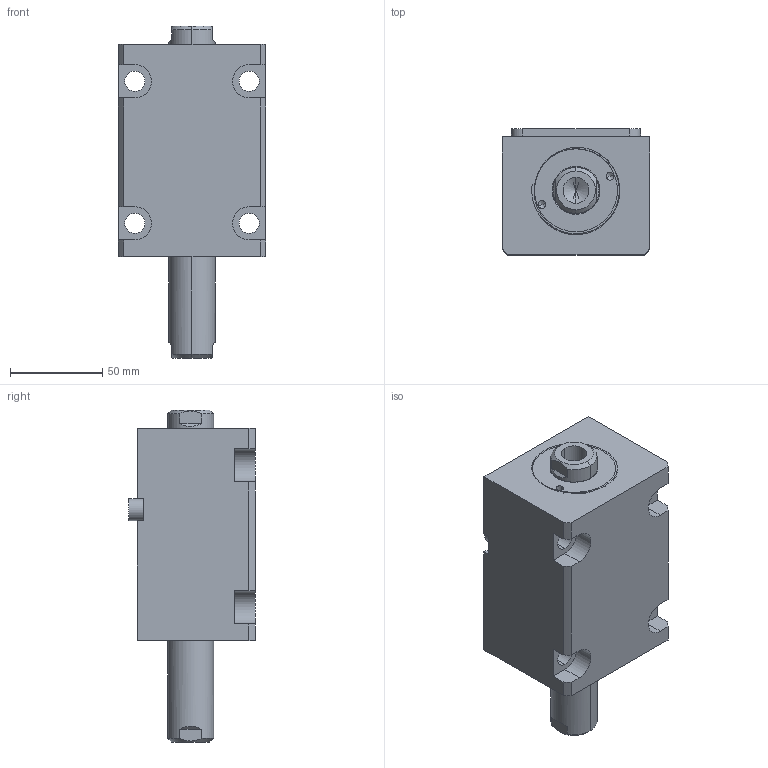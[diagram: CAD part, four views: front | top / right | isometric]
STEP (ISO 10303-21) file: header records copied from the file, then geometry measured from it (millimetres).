
FILE_DESCRIPTION (( 'STEP AP214' ), '1' );
FILE_NAME ('chtb-lwm40x45n_asm.STEP', '2018-05-30T08:04:06', ( 'Windows' ), ( 'Microsoft' ), 'SwSTEP 2.0', 'SolidWorks 2015', '' );
FILE_SCHEMA (( 'AUTOMOTIVE_DESIGN' ));
Length unit declared in the file: millimetre
Products named in the file (5): CHTB-SD40QG; CHTB-LA40PJ; CHTB-SW40X45NHSG; CHTB-LWM40X45NBT; chtb-lwm40x45n_asm
Assembly tree (4 placements, depth 2):
  chtb-lwm40x45n_asm
    CHTB-LWM40X45NBT
    CHTB-SW40X45NHSG
    CHTB-LA40PJ
    CHTB-SD40QG
Bounding box: 80 x 68.5 x 180 mm (x, y, z)
Volume: 545066.7 mm3; surface area: 97189.3 mm2
Topology: 4 solids, 4 shells, 166 faces, 450 edges, 296 vertices
Faces by surface type: cylinder 77, plane 50, bspline 14, cone 13, torus 12
Entity records: 10488 total; most frequent: CARTESIAN_POINT 6156, ORIENTED_EDGE 880, DIRECTION 821, EDGE_CURVE 440, AXIS2_PLACEMENT_3D 326, VERTEX_POINT 296, EDGE_LOOP 196, VECTOR 169
